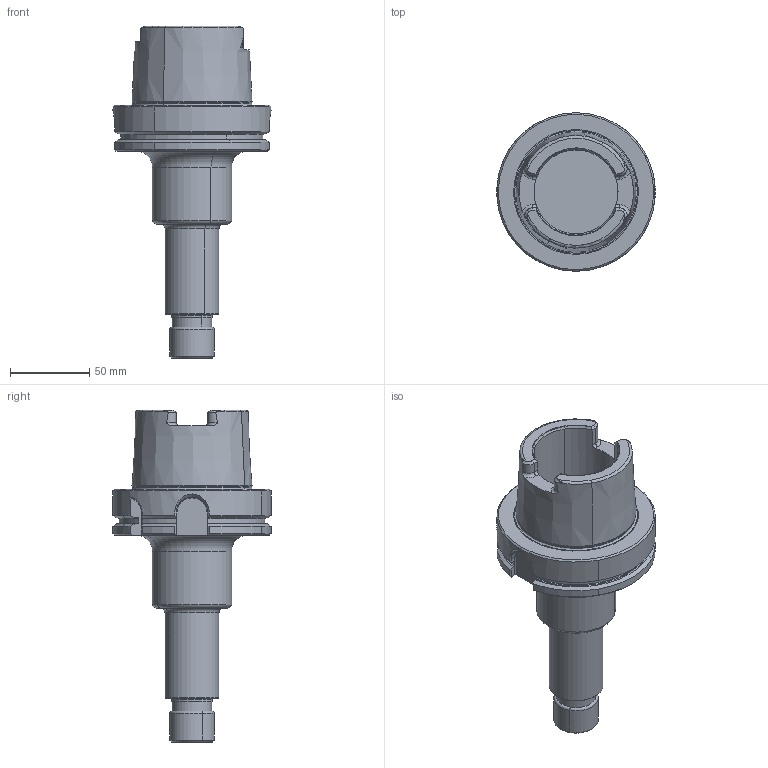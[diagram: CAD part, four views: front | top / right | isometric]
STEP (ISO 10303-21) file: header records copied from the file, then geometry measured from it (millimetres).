
FILE_DESCRIPTION(('CATIA V5 STEP','CAx-IF Rec.Pracs.--- Model Styling and Organization---1.2---2011-12-15'),'2;1');
FILE_NAME('I:\isr\design\admin8\users\farid_a\4561144.stp','2013-09-11T09:55:25+00:00',('none'),('none'),'CATIA Version 5 Release 21 SP 5 (IN-10)','CATIA V5 STEP AP214','none');
FILE_SCHEMA(('AUTOMOTIVE_DESIGN { 1 0 10303 214 1 1 1 1 }'));
Length unit declared in the file: millimetre
Products named in the file (1): 60903275_0 Assembly  HSK A 100 ER20X160 M
Bounding box: 99.99 x 100 x 209.5 mm (x, y, z)
Volume: 446495.9 mm3; surface area: 61434.4 mm2
Topology: 1 solids, 1 shells, 176 faces, 446 edges, 278 vertices
Faces by surface type: plane 51, cylinder 46, torus 41, cone 34, bspline 2, extrusion 2
Entity records: 5324 total; most frequent: CARTESIAN_POINT 1582, ORIENTED_EDGE 892, DIRECTION 553, EDGE_CURVE 446, AXIS2_PLACEMENT_3D 303, VERTEX_POINT 278, CIRCLE 198, EDGE_LOOP 182
